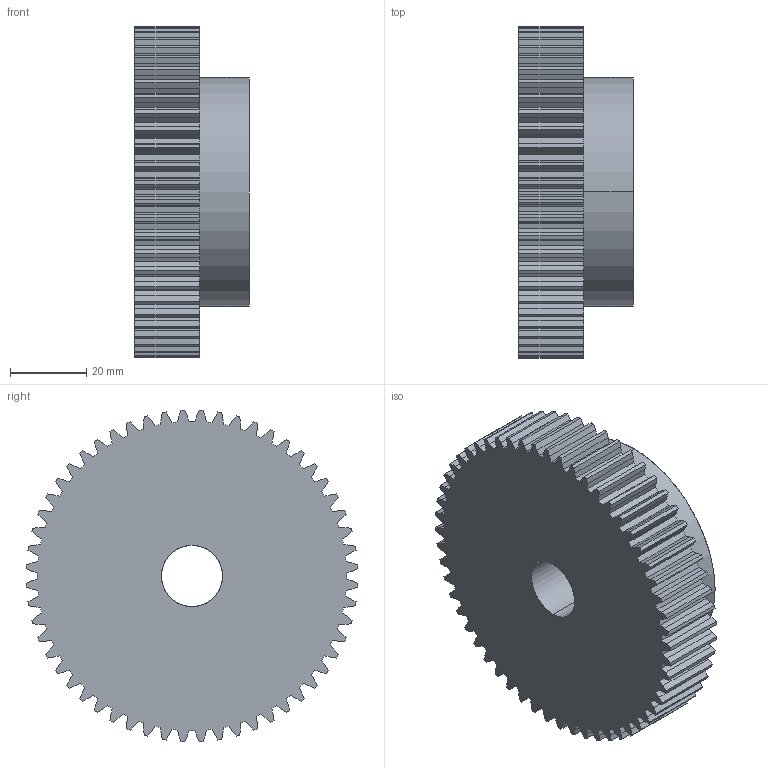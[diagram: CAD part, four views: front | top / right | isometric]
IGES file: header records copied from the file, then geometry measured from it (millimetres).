
Start section: SolidWorks IGES file using analytic representation for surfaces
Global section: file name: C:\Users\Honza\Desktop\Matis (Hotove)\Èelní ozubená kola\PM\MODUL 1,5\PM 27056.IGS; native system: SolidWorks 2010; preprocessor: SolidWorks 2010; author: Honza; date: 130924.133701; units: millimetre
Bounding box: 30 x 86.91 x 86.91 mm (x, y, z)
Surface area: 23028.3 mm2 (no closed solid volume)
Topology: 0 solids, 0 shells, 344 faces, 2231 edges, 2231 vertices
Faces by surface type: bspline 227, revolution 117
